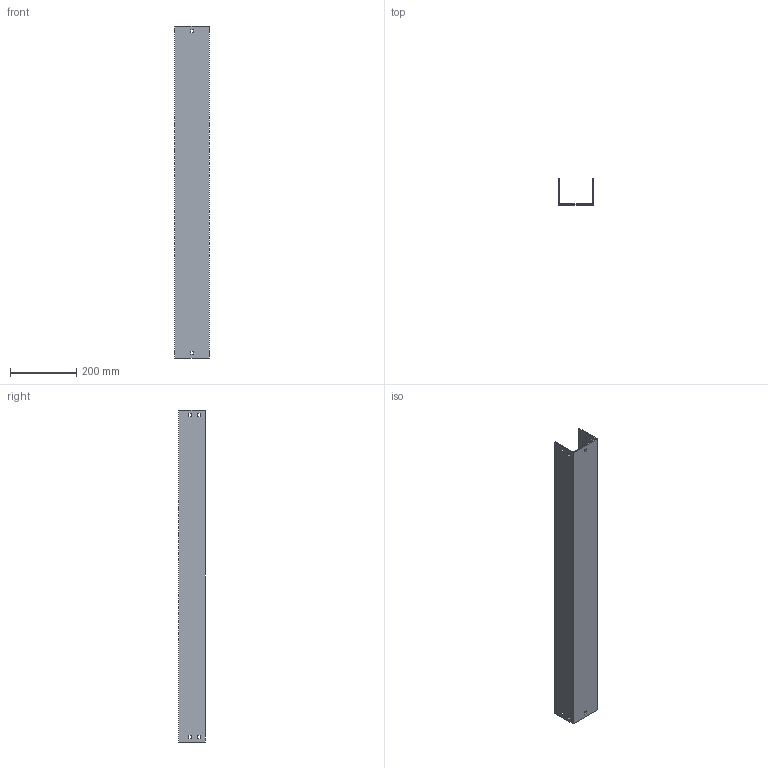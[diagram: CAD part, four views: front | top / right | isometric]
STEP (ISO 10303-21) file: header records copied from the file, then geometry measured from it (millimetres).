
FILE_DESCRIPTION (( 'STEP AP214' ), '1' );
FILE_NAME ('03F1C100.step', '2025-02-21T13:31:12', ( '' ), ( '' ), 'SwSTEP 2.0', 'SolidWorks 2023', '' );
FILE_SCHEMA (( 'AUTOMOTIVE_DESIGN' ));
Length unit declared in the file: millimetre
Products named in the file (1): 03F1C100
Bounding box: 104 x 79 x 1000 mm (x, y, z)
Volume: 890130.5 mm3; surface area: 518600 mm2
Topology: 1 solids, 1 shells, 50 faces, 144 edges, 96 vertices
Faces by surface type: plane 50
Entity records: 1671 total; most frequent: CARTESIAN_POINT 291, ORIENTED_EDGE 288, DIRECTION 246, VECTOR 144, EDGE_CURVE 144, LINE 144, VERTEX_POINT 96, EDGE_LOOP 70
